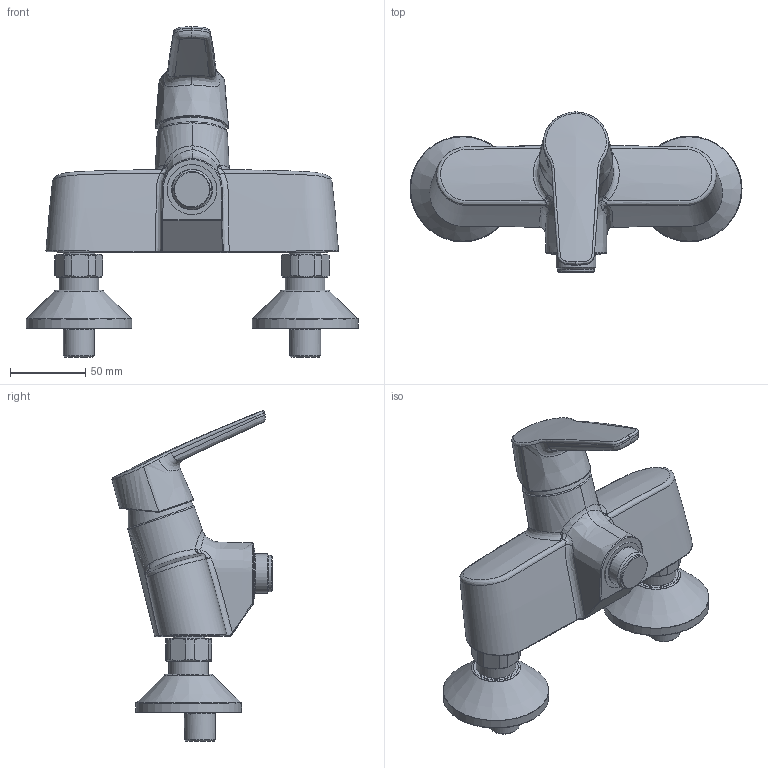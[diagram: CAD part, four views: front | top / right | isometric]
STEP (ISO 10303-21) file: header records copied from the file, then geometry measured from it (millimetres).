
FILE_DESCRIPTION (( 'STEP AP203' ), '1' );
FILE_NAME ('3970Y(2016).STEP', '2017-03-09T05:52:17', ( '' ), ( '' ), 'SwSTEP 2.0', 'SolidWorks 2016', '' );
FILE_SCHEMA (( 'CONFIG_CONTROL_DESIGN' ));
Length unit declared in the file: millimetre
Products named in the file (1): 3970Y(2016)
Bounding box: 220 x 106.03 x 218.92 mm (x, y, z)
Volume: 654427.7 mm3; surface area: 98502 mm2
Topology: 2 solids, 4 shells, 220 faces, 515 edges, 323 vertices
Faces by surface type: bspline 82, plane 50, cone 43, cylinder 39, torus 6
Full cylindrical faces by diameter (mm): 12.5 x2, 20.6 x2, 21.2 x2, 24 x3, 25 x1, 26 x2, 26.2 x4, 26.441 x1, 29 x2, 33 x1, 69.2 x2, 70 x2
Entity records: 30709 total; most frequent: CARTESIAN_POINT 26676, ORIENTED_EDGE 874, DIRECTION 607, EDGE_CURVE 437, VERTEX_POINT 298, EDGE_LOOP 293, AXIS2_PLACEMENT_3D 285, FACE_OUTER_BOUND 257
